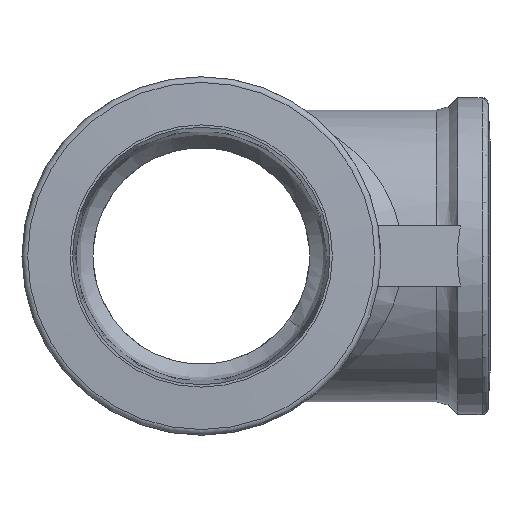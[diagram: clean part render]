
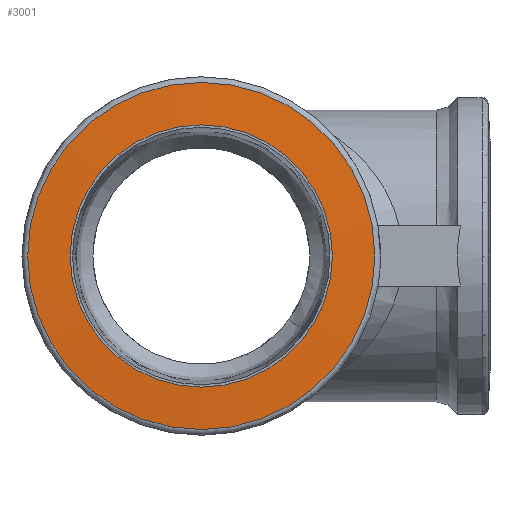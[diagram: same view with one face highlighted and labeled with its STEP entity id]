
A CAD part, front view. The second image highlights one B-rep face of the part: STEP entity #3001.
In plain terms, the highlighted conical face has half-angle 87 degrees and reference radius 25.8 mm.
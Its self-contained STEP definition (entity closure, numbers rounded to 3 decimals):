
#2970=CARTESIAN_POINT('',(28.852,-45.63,0.));
#2971=VERTEX_POINT('',#2970);
#2972=CARTESIAN_POINT('',(0.,-45.63,0.));
#2973=DIRECTION('',(0.0,1.0,0.0));
#2974=DIRECTION('',(-1.0,0.0,0.0));
#2975=AXIS2_PLACEMENT_3D('',#2972,#2973,#2974);
#2976=CIRCLE('',#2975,28.852);
#2977=EDGE_CURVE('',#2971,#2971,#2976,.T.);
#2982=CARTESIAN_POINT('',(0.,-45.79,0.0));
#2983=DIRECTION('',(0.,1.0,0.0));
#2984=DIRECTION('',(-1.0,0.0,0.0));
#2985=AXIS2_PLACEMENT_3D('',#2982,#2983,#2984);
#2986=CONICAL_SURFACE('',#2985,25.8,87.);
#2987=ORIENTED_EDGE('',*,*,#2977,.F.);
#2988=EDGE_LOOP('',(#2987));
#2989=FACE_OUTER_BOUND('',#2988,.T.);
#2990=CARTESIAN_POINT('',(21.8,-46.,0.));
#2991=VERTEX_POINT('',#2990);
#2992=CARTESIAN_POINT('',(0.,-46.,0.0));
#2993=DIRECTION('',(0.0,1.0,0.0));
#2994=DIRECTION('',(-1.0,0.0,0.0));
#2995=AXIS2_PLACEMENT_3D('',#2992,#2993,#2994);
#2996=CIRCLE('',#2995,21.8);
#2997=EDGE_CURVE('',#2991,#2991,#2996,.T.);
#2998=ORIENTED_EDGE('',*,*,#2997,.T.);
#2999=EDGE_LOOP('',(#2998));
#3000=FACE_BOUND('',#2999,.T.);
#3001=ADVANCED_FACE('',(#2989,#3000),#2986,.T.);
